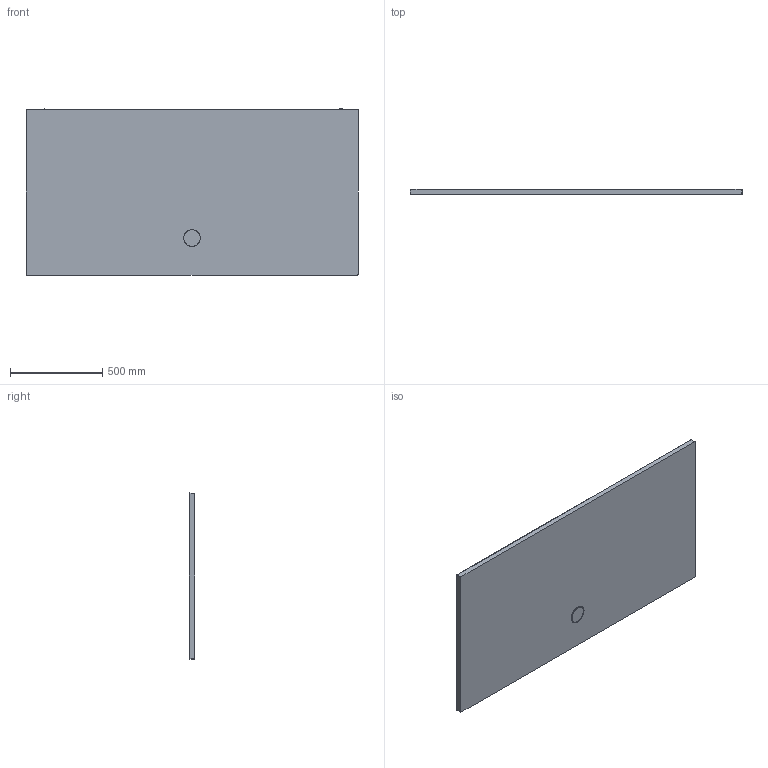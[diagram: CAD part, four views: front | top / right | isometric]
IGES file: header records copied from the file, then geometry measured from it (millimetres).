
Start section: SolidWorks IGES file using analytic representation for surfaces
Global section: file name: Y:\TKT\_PLIKI DLA ARCHITEKTÓW\02_AKRYL\BRODZIKI\seria SPACE MINERAL\IGS\B_M_90x180x1,5.IGS; native system: SolidWorks 2011; preprocessor: SolidWorks 2011; author: M.Szymanski; date: 180215.160859; units: millimetre
Bounding box: 1800 x 30 x 900 mm (x, y, z)
Surface area: 3414504.8 mm2 (no closed solid volume)
Topology: 0 solids, 0 shells, 61 faces, 727 edges, 724 vertices
Faces by surface type: bspline 39, revolution 22
